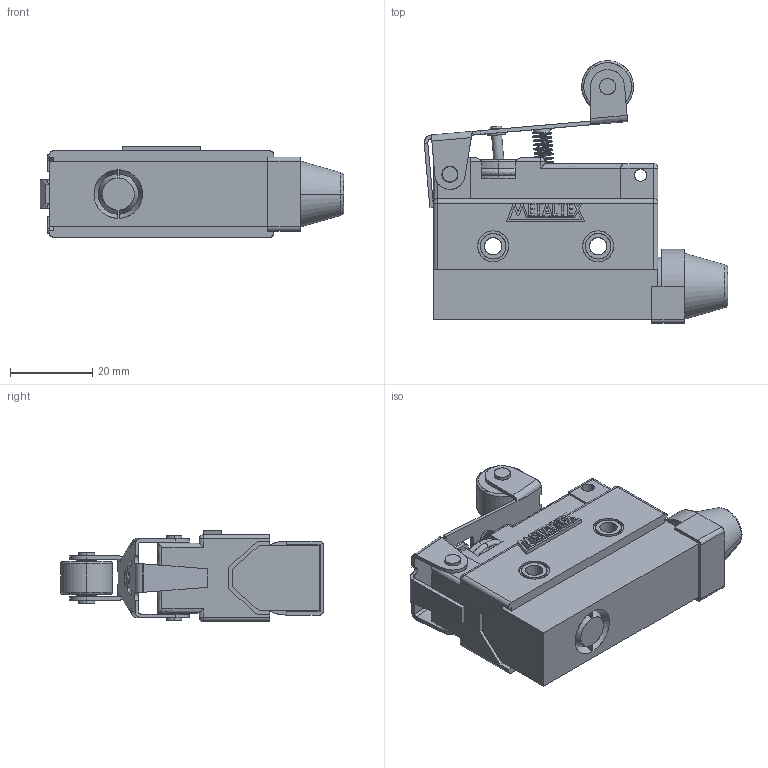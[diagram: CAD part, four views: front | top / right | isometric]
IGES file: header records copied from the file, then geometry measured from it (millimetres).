
Start section: SolidWorks IGES file using analytic representation for surfaces
Global section: file name: D:\X - Arquivos\PROEX\Empresas\P11 - METALTEX\01 - Produtos\IGES\4ª remessa\1ª etapa\FM7141.IGS; native system: SolidWorks 2012; preprocessor: SolidWorks 2012; author: Usuario; date: 180323.102247; units: millimetre
Bounding box: 73.76 x 63.8 x 22 mm (x, y, z)
Surface area: 13891.4 mm2 (no closed solid volume)
Topology: 0 solids, 0 shells, 425 faces, 5208 edges, 5179 vertices
Faces by surface type: bspline 277, revolution 148
